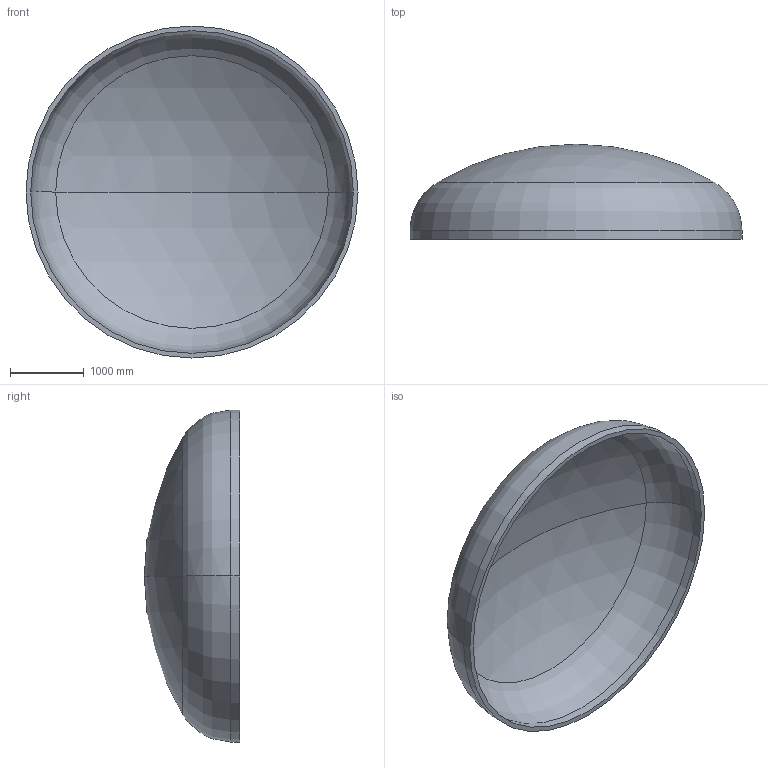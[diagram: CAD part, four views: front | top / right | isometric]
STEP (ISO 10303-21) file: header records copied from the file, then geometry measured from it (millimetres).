
FILE_DESCRIPTION (( 'STEP AP203' ), '1' );
FILE_NAME ('DIN 28013 Korbbogenform_-_Boden DIN 28013 - 4500 x 120 - I - s=64.step', '2016-07-01T23:37:19', ( '' ), ( '' ), 'SwSTEP 2.0', 'SolidWorks 2013', '' );
FILE_SCHEMA (( 'CONFIG_CONTROL_DESIGN' ));
Length unit declared in the file: millimetre
Products named in the file (1): DIN 28013 Korbbogenform_-_Boden DIN 28013 - 4500 x 120 - I - s=64
Bounding box: 4500 x 1290.82 x 4500 mm (x, y, z)
Volume: 1491320010.7 mm3; surface area: 47504222.7 mm2
Topology: 1 solids, 1 shells, 13 faces, 24 edges, 14 vertices
Faces by surface type: torus 4, cylinder 4, sphere 4, plane 1
Entity records: 407 total; most frequent: DIRECTION 72, CARTESIAN_POINT 52, ORIENTED_EDGE 48, AXIS2_PLACEMENT_3D 34, EDGE_CURVE 24, CIRCLE 20, EDGE_LOOP 14, VERTEX_POINT 14
